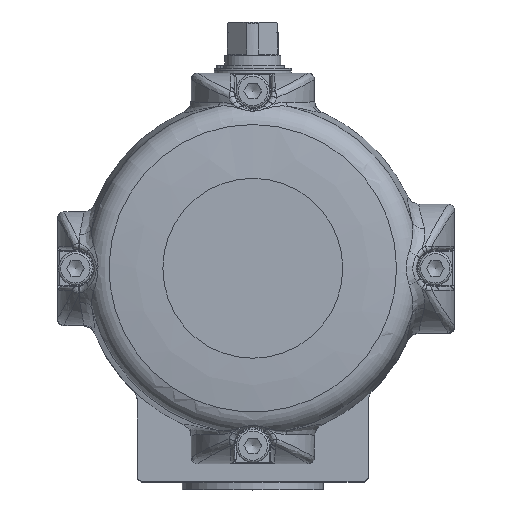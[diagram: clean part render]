
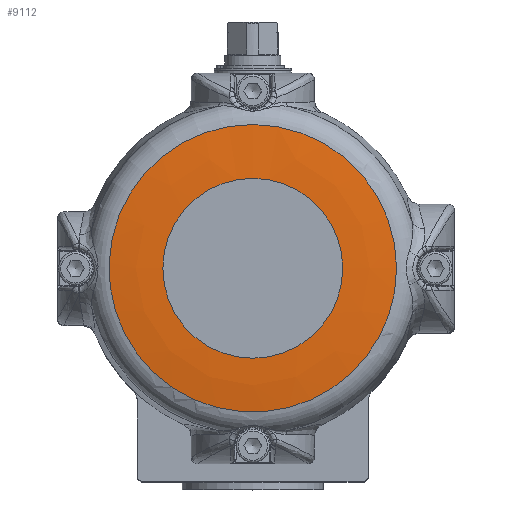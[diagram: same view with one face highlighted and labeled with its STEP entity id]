
A CAD part, top view. The second image highlights one B-rep face of the part: STEP entity #9112.
In plain terms, the highlighted free-form (B-spline) face has degree [2, 2] with [3, 9] control points.
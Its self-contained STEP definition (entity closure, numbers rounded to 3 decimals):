
#13=(
BOUNDED_SURFACE()
B_SPLINE_SURFACE(2,2,((#18597,#18598,#18599,#18600,#18601,#18602,#18603,
#18604,#18605),(#18606,#18607,#18608,#18609,#18610,#18611,#18612,#18613,
#18614),(#18615,#18616,#18617,#18618,#18619,#18620,#18621,#18622,#18623)),
 .UNSPECIFIED.,.F.,.T.,.F.)
B_SPLINE_SURFACE_WITH_KNOTS((3,3),(3,2,2,2,3),(-1.571,-1.431),
(-3.142,-1.571,0.,1.571,3.142),
 .UNSPECIFIED.)
GEOMETRIC_REPRESENTATION_ITEM()
RATIONAL_B_SPLINE_SURFACE(((1.,0.707,1.,0.707,1.,
0.707,1.,0.707,1.),(0.998,0.705,
0.998,0.705,0.998,0.705,0.998,
0.705,0.998),(1.,0.707,1.,0.707,
1.,0.707,1.,0.707,1.)))
REPRESENTATION_ITEM('')
SURFACE()
);
#221=(
BOUNDED_CURVE()
B_SPLINE_CURVE(2,(#18624,#18625,#18626),.UNSPECIFIED.,.F.,.F.)
B_SPLINE_CURVE_WITH_KNOTS((3,3),(1.431,1.571),
 .UNSPECIFIED.)
CURVE()
GEOMETRIC_REPRESENTATION_ITEM()
RATIONAL_B_SPLINE_CURVE((1.,0.998,1.))
REPRESENTATION_ITEM('')
);
#719=CIRCLE('',#9687,55.94);
#720=CIRCLE('',#9688,55.94);
#775=CIRCLE('',#9801,35.);
#776=CIRCLE('',#9802,35.);
#1262=FACE_OUTER_BOUND('',#1811,.T.);
#1811=EDGE_LOOP('',(#7116,#7117,#7118,#7119,#7120,#7121));
#3817=VERTEX_POINT('',#16272);
#3818=VERTEX_POINT('',#16273);
#3931=VERTEX_POINT('',#18593);
#3932=VERTEX_POINT('',#18594);
#4954=EDGE_CURVE('',#3817,#3818,#719,.T.);
#4955=EDGE_CURVE('',#3818,#3817,#720,.T.);
#5158=EDGE_CURVE('',#3931,#3932,#775,.T.);
#5159=EDGE_CURVE('',#3932,#3931,#776,.T.);
#5160=EDGE_CURVE('',#3818,#3932,#221,.T.);
#7116=ORIENTED_EDGE('',*,*,#4954,.F.);
#7117=ORIENTED_EDGE('',*,*,#4955,.F.);
#7118=ORIENTED_EDGE('',*,*,#5160,.T.);
#7119=ORIENTED_EDGE('',*,*,#5159,.T.);
#7120=ORIENTED_EDGE('',*,*,#5158,.T.);
#7121=ORIENTED_EDGE('',*,*,#5160,.F.);
#9112=ADVANCED_FACE('',(#1262),#13,.F.);
#9687=AXIS2_PLACEMENT_3D('',#16274,#11042,#11043);
#9688=AXIS2_PLACEMENT_3D('',#16275,#11044,#11045);
#9801=AXIS2_PLACEMENT_3D('',#18595,#11320,#11321);
#9802=AXIS2_PLACEMENT_3D('',#18596,#11322,#11323);
#11042=DIRECTION('center_axis',(0.,0.,
-1.));
#11043=DIRECTION('ref_axis',(1.,0.,0.));
#11044=DIRECTION('center_axis',(0.,0.,
-1.));
#11045=DIRECTION('ref_axis',(1.,0.,0.));
#11320=DIRECTION('center_axis',(0.,0.,
-1.));
#11321=DIRECTION('ref_axis',(1.,0.,0.));
#11322=DIRECTION('center_axis',(0.,0.,
-1.));
#11323=DIRECTION('ref_axis',(1.,0.,0.));
#16272=CARTESIAN_POINT('',(55.94,0.,117.031));
#16273=CARTESIAN_POINT('',(0.,55.94,117.031));
#16274=CARTESIAN_POINT('Origin',(0.,0.,
117.031));
#16275=CARTESIAN_POINT('Origin',(0.,0.,
117.031));
#18593=CARTESIAN_POINT('',(35.,0.,118.5));
#18594=CARTESIAN_POINT('',(0.,35.,118.5));
#18595=CARTESIAN_POINT('Origin',(0.,0.,
118.5));
#18596=CARTESIAN_POINT('Origin',(0.,0.,
118.5));
#18597=CARTESIAN_POINT('Ctrl Pts',(0.,35.,118.5));
#18598=CARTESIAN_POINT('Ctrl Pts',(35.,35.,118.5));
#18599=CARTESIAN_POINT('Ctrl Pts',(35.,0.,118.5));
#18600=CARTESIAN_POINT('Ctrl Pts',(35.,-35.,118.5));
#18601=CARTESIAN_POINT('Ctrl Pts',(0.,-35.,118.5));
#18602=CARTESIAN_POINT('Ctrl Pts',(-35.,-35.,118.5));
#18603=CARTESIAN_POINT('Ctrl Pts',(-35.,0.,118.5));
#18604=CARTESIAN_POINT('Ctrl Pts',(-35.,35.,118.5));
#18605=CARTESIAN_POINT('Ctrl Pts',(0.,35.,118.5));
#18606=CARTESIAN_POINT('Ctrl Pts',(0.,45.521,
118.5));
#18607=CARTESIAN_POINT('Ctrl Pts',(45.521,45.521,118.5));
#18608=CARTESIAN_POINT('Ctrl Pts',(45.521,0.,
118.5));
#18609=CARTESIAN_POINT('Ctrl Pts',(45.521,-45.521,118.5));
#18610=CARTESIAN_POINT('Ctrl Pts',(0.,-45.521,
118.5));
#18611=CARTESIAN_POINT('Ctrl Pts',(-45.521,-45.521,
118.5));
#18612=CARTESIAN_POINT('Ctrl Pts',(-45.521,0.,
118.5));
#18613=CARTESIAN_POINT('Ctrl Pts',(-45.521,45.521,118.5));
#18614=CARTESIAN_POINT('Ctrl Pts',(0.,45.521,
118.5));
#18615=CARTESIAN_POINT('Ctrl Pts',(0.,55.94,
117.031));
#18616=CARTESIAN_POINT('Ctrl Pts',(55.94,55.94,117.031));
#18617=CARTESIAN_POINT('Ctrl Pts',(55.94,0.,
117.031));
#18618=CARTESIAN_POINT('Ctrl Pts',(55.94,-55.94,117.031));
#18619=CARTESIAN_POINT('Ctrl Pts',(0.,-55.94,
117.031));
#18620=CARTESIAN_POINT('Ctrl Pts',(-55.94,-55.94,
117.031));
#18621=CARTESIAN_POINT('Ctrl Pts',(-55.94,0.,
117.031));
#18622=CARTESIAN_POINT('Ctrl Pts',(-55.94,55.94,117.031));
#18623=CARTESIAN_POINT('Ctrl Pts',(0.,55.94,
117.031));
#18624=CARTESIAN_POINT('Ctrl Pts',(0.,55.94,
117.031));
#18625=CARTESIAN_POINT('Ctrl Pts',(0.,45.521,
118.5));
#18626=CARTESIAN_POINT('Ctrl Pts',(0.,35.,118.5));
